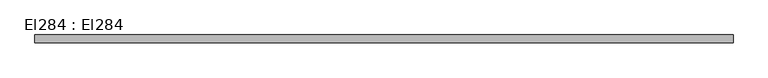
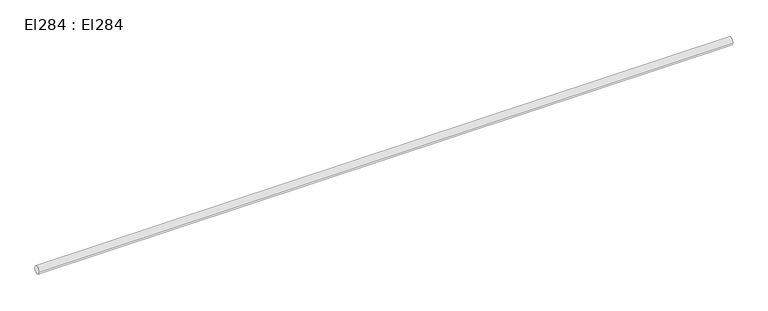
"""IFC4 building model written with IfcOpenShell, lengths in millimetres: cable carrier segment geometry, El284 : El284."""

from ifc_helpers import new_model, si_unit, point, frame, frame_2d, origin, place, context, project, spatial, circle_curve, trimmed, segment, composite_curve, outline, extrude, source, transform, mapped, element, save


def el284_el284_6ae4ccb0(model_context):
    return source(origin(), model_context, "Body", "SweptSolid", [
        extrude(outline(composite_curve([segment(trimmed(circle_curve(frame_2d((14766.3, 2950.0)), 21.5), [point((14744.8, 2950.0))], [point((14787.8, 2950.0))], False, "CARTESIAN"), True, "CONTINUOUS"), segment(trimmed(circle_curve(frame_2d((14766.3, 2950.0)), 21.5), [point((14787.8, 2950.0))], [point((14744.8, 2950.0))], False, "CARTESIAN"), True, "CONTINUOUS")], self_intersect=False)), frame((8335.87, 0.0, 0.0), z_axis=(1.0, 0.0, 0.0), x_axis=(0.0, 1.0, 0.0)), (0.0, 0.0, 1.0), 3828.67),
    ])


if __name__ == "__main__":
    model = new_model("IFC4")
    model_context = context("Model", 3, world=origin())
    ifc_project = project(units=[si_unit("LENGTHUNIT", "METRE", prefix="MILLI")], contexts=[model_context])
    site = spatial("IfcSite", under=ifc_project)
    building = spatial("IfcBuilding", under=site)
    placement = place(None, origin())
    el284_el284_shape = el284_el284_6ae4ccb0(model_context)
    element("IfcCableCarrierSegment", 1, ObjectType="El284 : El284", at=placement, inside=building, context=model_context, shape_type="MappedRepresentation", body=[
        mapped(el284_el284_shape, transform((0.0, 0.0, 0.0), x_axis=(1.0, 0.0, 0.0), y_axis=(0.0, 1.0, 0.0), z_axis=(0.0, 0.0, 1.0))),
    ])
    save(model, "model.ifc")
